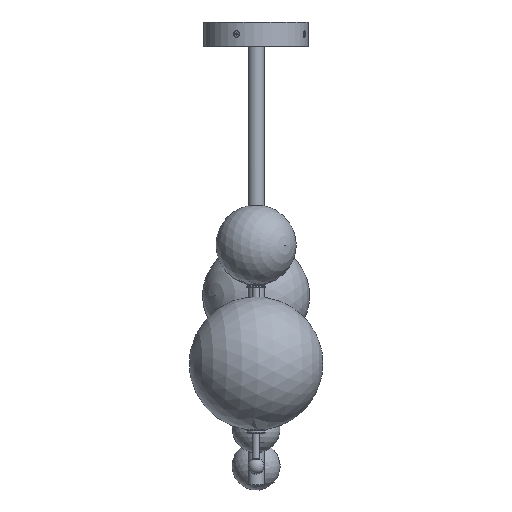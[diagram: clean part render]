
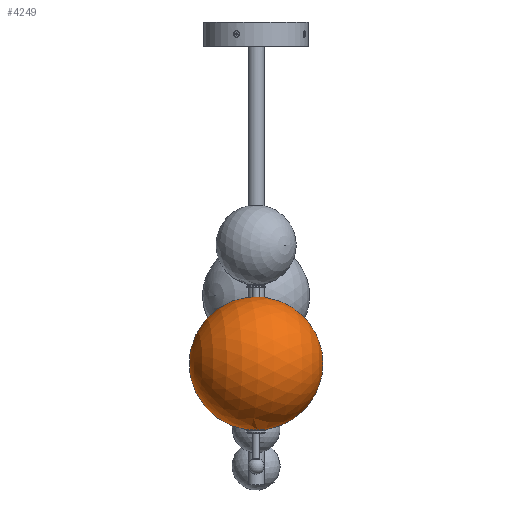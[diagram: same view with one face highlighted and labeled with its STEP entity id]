
A CAD part, front view. The second image highlights one B-rep face of the part: STEP entity #4249.
In plain terms, the highlighted spherical face has radius 125 mm.
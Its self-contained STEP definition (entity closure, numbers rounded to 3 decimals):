
#144=SPHERICAL_SURFACE('',#4631,125.);
#294=FACE_BOUND('',#719,.T.);
#389=FACE_OUTER_BOUND('',#718,.T.);
#718=EDGE_LOOP('',(#3017,#3018));
#719=EDGE_LOOP('',(#3019));
#1181=CIRCLE('',#4632,125.);
#1182=CIRCLE('',#4633,16.5);
#1937=VERTEX_POINT('',#7271);
#1938=VERTEX_POINT('',#7272);
#1939=VERTEX_POINT('',#7274);
#2339=EDGE_CURVE('',#1937,#1938,#1181,.T.);
#2340=EDGE_CURVE('',#1939,#1939,#1182,.T.);
#3017=ORIENTED_EDGE('',*,*,#2339,.T.);
#3018=ORIENTED_EDGE('',*,*,#2339,.F.);
#3019=ORIENTED_EDGE('',*,*,#2340,.T.);
#4249=ADVANCED_FACE('',(#389,#294),#144,.T.);
#4631=AXIS2_PLACEMENT_3D('',#7270,#5417,#5418);
#4632=AXIS2_PLACEMENT_3D('',#7273,#5419,#5420);
#4633=AXIS2_PLACEMENT_3D('',#7275,#5421,#5422);
#5417=DIRECTION('center_axis',(0.989,0.149,0.));
#5418=DIRECTION('ref_axis',(0.149,-0.989,0.));
#5419=DIRECTION('center_axis',(0.,0.,
1.));
#5420=DIRECTION('ref_axis',(-0.149,0.989,0.));
#5421=DIRECTION('center_axis',(0.,0.,1.));
#5422=DIRECTION('ref_axis',(-0.609,0.793,0.));
#7270=CARTESIAN_POINT('Origin',(0.,-628.56,
226.717));
#7271=CARTESIAN_POINT('',(123.599,-609.899,226.717));
#7272=CARTESIAN_POINT('',(-123.599,-647.22,226.717));
#7273=CARTESIAN_POINT('Origin',(0.,-628.56,
226.717));
#7274=CARTESIAN_POINT('',(10.055,-641.642,102.811));
#7275=CARTESIAN_POINT('Origin',(0.,-628.56,
102.811));
